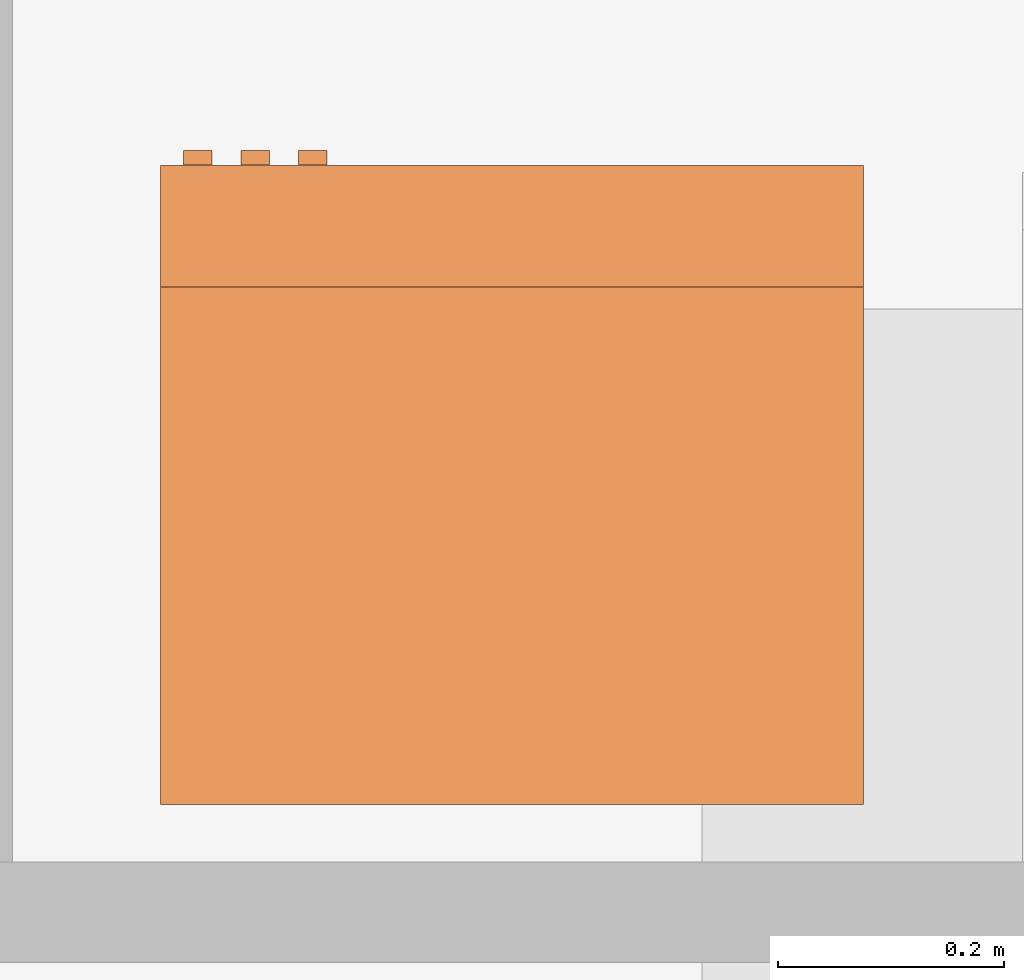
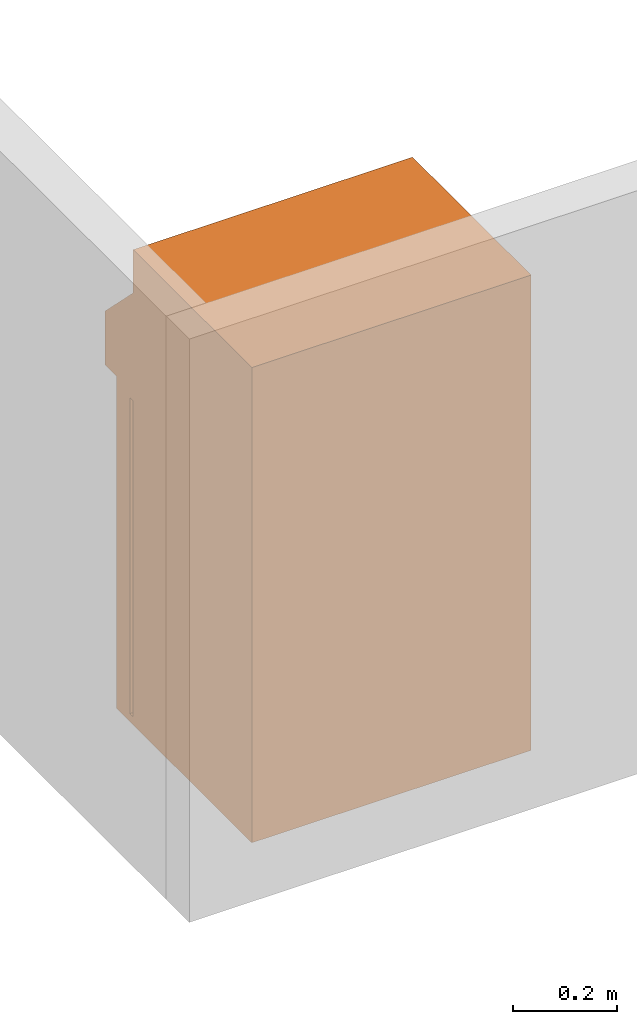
# One storey, part 138 of 142: 1 proxy.
"""IFC2X3 building model written with IfcOpenShell, lengths in feet."""

from ifc_helpers import new_model, entity, si_unit, converted_unit, derived_unit, direction, frame, origin, place, context, subcontext, project, spatial, faceted_brep, source, transform, mapped, type_object, type_shapes, element, save


model = new_model("IFC2X3")

# Units and contexts
model_context = context("Model", 3, precision=0.0001, world=origin(), true_north=direction((6.12303176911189e-17, 1.0)))
body_context = subcontext(model_context, "Body", "Model", "MODEL_VIEW")
ifc_project = project(units=[converted_unit("LENGTHUNIT", "FOOT", entity("IfcRatioMeasure", 0.3048), si_unit("LENGTHUNIT", "METRE"), dimensions=[1, 0, 0, 0, 0, 0, 0]), converted_unit("AREAUNIT", "SQUARE FOOT", entity("IfcRatioMeasure", 0.09290304), si_unit("AREAUNIT", "SQUARE_METRE"), dimensions=[2, 0, 0, 0, 0, 0, 0]), converted_unit("VOLUMEUNIT", "CUBIC FOOT", entity("IfcRatioMeasure", 0.028316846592), si_unit("VOLUMEUNIT", "CUBIC_METRE"), dimensions=[3, 0, 0, 0, 0, 0, 0]), converted_unit("PLANEANGLEUNIT", "DEGREE", entity("IfcRatioMeasure", 0.0174532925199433), si_unit("PLANEANGLEUNIT", "RADIAN"), dimensions=[0, 0, 0, 0, 0, 0, 0]), si_unit("MASSUNIT", "GRAM", prefix="KILO"), derived_unit("MASSDENSITYUNIT", [(si_unit("MASSUNIT", "GRAM", prefix="KILO"), 1), (si_unit("LENGTHUNIT", "METRE"), -3)]), si_unit("TIMEUNIT", "SECOND"), si_unit("FREQUENCYUNIT", "HERTZ"), si_unit("THERMODYNAMICTEMPERATUREUNIT", "DEGREE_CELSIUS"), derived_unit("THERMALTRANSMITTANCEUNIT", [(si_unit("MASSUNIT", "GRAM", prefix="KILO"), 1), (si_unit("THERMODYNAMICTEMPERATUREUNIT", "KELVIN"), -1), (si_unit("TIMEUNIT", "SECOND"), -3)]), derived_unit("VOLUMETRICFLOWRATEUNIT", [(si_unit("LENGTHUNIT", "METRE"), 3), (si_unit("TIMEUNIT", "SECOND"), -1)]), si_unit("ELECTRICCURRENTUNIT", "AMPERE"), si_unit("ELECTRICVOLTAGEUNIT", "VOLT"), si_unit("POWERUNIT", "WATT"), si_unit("FORCEUNIT", "NEWTON"), si_unit("ILLUMINANCEUNIT", "LUX"), si_unit("LUMINOUSFLUXUNIT", "LUMEN"), si_unit("LUMINOUSINTENSITYUNIT", "CANDELA"), derived_unit("USERDEFINED", [(si_unit("MASSUNIT", "GRAM", prefix="KILO"), -1), (si_unit("LENGTHUNIT", "METRE"), -2), (si_unit("TIMEUNIT", "SECOND"), 3), (si_unit("LUMINOUSFLUXUNIT", "LUMEN"), 1)]), derived_unit("LINEARVELOCITYUNIT", [(si_unit("LENGTHUNIT", "METRE"), 1), (si_unit("TIMEUNIT", "SECOND"), -1)]), si_unit("PRESSUREUNIT", "PASCAL"), derived_unit("USERDEFINED", [(si_unit("LENGTHUNIT", "METRE"), -2), (si_unit("MASSUNIT", "GRAM", prefix="KILO"), 1), (si_unit("TIMEUNIT", "SECOND"), -2)])], contexts=[model_context])

# Site, building, storey, space
site_placement = place(None, origin())
site = spatial("IfcSite", under=ifc_project, at=site_placement, Name="Default", CompositionType="ELEMENT")
building_placement = place(site_placement, origin())
building = spatial("IfcBuilding", under=site, at=building_placement, Name="OUTPATIENT / PACT CLINIC (Ch. 265)", CompositionType="ELEMENT")
storey_placement = place(building_placement, origin())
storey = spatial("IfcBuildingStorey", under=building, at=storey_placement, Name="LEVEL 1", CompositionType="ELEMENT", Elevation=0.0)
space_placement = place(storey_placement, origin())
space = spatial("IfcSpace", under=storey, at=space_placement, Name="RCA02", CompositionType="ELEMENT", InteriorOrExteriorSpace="INTERNAL")

# Proxy
building_element_proxy_type = type_object("IfcBuildingElementProxyType", Name="F2550 - Shredder, Paper Heavy Duty", PredefinedType="NOTDEFINED")
shared_shape = source(origin(), body_context, "Body", "Brep", [
    faceted_brep([(0.933890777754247, -0.895833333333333, 2.96222979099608), (0.850557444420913, -0.895833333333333, 2.96222979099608), (0.850557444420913, -0.895833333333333, 2.75389645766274), (0.933890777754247, -0.895833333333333, 2.75389645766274), (0.933890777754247, -0.854166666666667, 2.96222979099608), (0.933890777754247, -0.854166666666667, 2.75389645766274), (0.850557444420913, -0.854166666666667, 2.75389645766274), (0.850557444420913, -0.854166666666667, 2.96222979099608)], [[[0, 1, 2, 3]], [[4, 5, 6, 7]], [[1, 0, 4, 7]], [[2, 1, 7, 6]], [[3, 2, 6, 5]], [[0, 3, 5, 4]]]),
    faceted_brep([(0.76722411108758, -0.895833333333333, 2.96222979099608), (0.683890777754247, -0.895833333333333, 2.96222979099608), (0.683890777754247, -0.895833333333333, 2.75389645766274), (0.76722411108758, -0.895833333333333, 2.75389645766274), (0.76722411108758, -0.854166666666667, 2.96222979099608), (0.76722411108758, -0.854166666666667, 2.75389645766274), (0.683890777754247, -0.854166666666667, 2.75389645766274), (0.683890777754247, -0.854166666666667, 2.96222979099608)], [[[0, 1, 2, 3]], [[4, 5, 6, 7]], [[1, 0, 4, 7]], [[2, 1, 7, 6]], [[3, 2, 6, 5]], [[0, 3, 5, 4]]]),
    faceted_brep([(0.600557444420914, -0.895833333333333, 2.96222979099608), (0.51722411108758, -0.895833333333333, 2.96222979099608), (0.51722411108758, -0.895833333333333, 2.75389645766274), (0.600557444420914, -0.895833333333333, 2.75389645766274), (0.600557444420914, -0.854166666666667, 2.96222979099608), (0.600557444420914, -0.854166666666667, 2.75389645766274), (0.51722411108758, -0.854166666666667, 2.75389645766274), (0.51722411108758, -0.854166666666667, 2.96222979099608)], [[[0, 1, 2, 3]], [[4, 5, 6, 7]], [[1, 0, 4, 7]], [[2, 1, 7, 6]], [[3, 2, 6, 5]], [[0, 3, 5, 4]]]),
    faceted_brep([(1.0, -0.541666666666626, 2.58394660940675), (1.0, -0.708333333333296, 2.58394660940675), (1.0, -0.708333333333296, 0.145833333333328), (1.0, -0.541666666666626, 0.145833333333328), (-0.981201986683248, -0.541666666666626, 2.58394660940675), (-0.981201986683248, -0.541666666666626, 0.145833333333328), (-0.981201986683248, -0.708333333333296, 0.145833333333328), (-0.981201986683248, -0.708333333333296, 2.58394660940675)], [[[0, 1, 2, 3]], [[4, 5, 6, 7]], [[1, 0, 4, 7]], [[2, 1, 7, 6]], [[3, 2, 6, 5]], [[0, 3, 5, 4]]]),
    faceted_brep([(0.729166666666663, -0.708333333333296, 2.64644660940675), (0.729166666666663, -0.708333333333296, 2.58394660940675), (1.0, -0.708333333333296, 2.58394660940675), (1.0, -0.708333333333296, 2.64644660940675), (0.729166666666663, -0.499999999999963, 2.64644660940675), (1.0, -0.499999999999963, 2.64644660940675), (1.0, -0.499999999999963, 2.58394660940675), (0.729166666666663, -0.499999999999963, 2.58394660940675)], [[[0, 1, 2, 3]], [[4, 5, 6, 7]], [[1, 0, 4, 7]], [[2, 1, 7, 6]], [[3, 2, 6, 5]], [[0, 3, 5, 4]]]),
    faceted_brep([(0.729166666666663, -0.708333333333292, 0.145833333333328), (0.729166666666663, -0.708333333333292, 0.0833333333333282), (1.0, -0.708333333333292, 0.0833333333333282), (1.0, -0.708333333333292, 0.145833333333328), (0.729166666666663, -0.499999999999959, 0.145833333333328), (1.0, -0.499999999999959, 0.145833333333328), (1.0, -0.499999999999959, 0.0833333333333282), (0.729166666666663, -0.499999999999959, 0.0833333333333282)], [[[0, 1, 2, 3]], [[4, 5, 6, 7]], [[1, 0, 4, 7]], [[2, 1, 7, 6]], [[3, 2, 6, 5]], [[0, 3, 5, 4]]]),
    faceted_brep([(0.899788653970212, -0.541666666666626, 2.53491846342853), (-0.907183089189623, -0.541666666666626, 2.53491846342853), (-0.907183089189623, -0.541666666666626, 0.201585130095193), (0.899788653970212, -0.541666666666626, 0.201585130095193), (0.899788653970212, -0.499999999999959, 2.53491846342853), (0.899788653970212, -0.499999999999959, 0.201585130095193), (-0.907183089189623, -0.499999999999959, 0.201585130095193), (-0.907183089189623, -0.499999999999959, 2.53491846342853)], [[[0, 1, 2, 3]], [[4, 5, 6, 7]], [[1, 0, 4, 7]], [[2, 1, 7, 6]], [[3, 2, 6, 5]], [[0, 3, 5, 4]]]),
    faceted_brep([(1.0, 1.0, 3.75), (1.0, -0.499999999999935, 3.75000000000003), (1.0, -0.499999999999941, 3.41666666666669), (1.0, -0.853553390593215, 3.06311327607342), (1.0, -0.853553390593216, 2.64644660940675), (1.0, -0.499999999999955, 2.64644660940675), (1.0, -0.499999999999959, 0.0833333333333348), (1.0, 1.0, 0.0833333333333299), (-1.03832909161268, 1.0, 3.75), (-1.03832909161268, 1.0, 0.0833333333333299), (-1.03832909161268, -0.499999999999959, 0.0833333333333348), (-1.03832909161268, -0.499999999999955, 2.64644660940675), (-1.03832909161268, -0.853553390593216, 2.64644660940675), (-1.03832909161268, -0.853553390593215, 3.06311327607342), (-1.03832909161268, -0.499999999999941, 3.41666666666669), (-1.03832909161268, -0.499999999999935, 3.75000000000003), (-0.907183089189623, -0.853553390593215, 2.96282054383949), (0.42615024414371, -0.853553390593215, 2.96282054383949), (0.42615024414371, -0.853553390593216, 2.73365387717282), (-0.907183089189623, -0.853553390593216, 2.73365387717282), (0.42615024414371, -0.24574464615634, 2.96282054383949), (-0.907183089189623, -0.24574464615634, 2.96282054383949), (-0.907183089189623, -0.24574464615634, 2.73365387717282), (0.42615024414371, -0.24574464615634, 2.73365387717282)], [[[0, 1, 2, 3, 4, 5, 6, 7]], [[8, 9, 10, 11, 12, 13, 14, 15]], [[1, 0, 8, 15]], [[2, 1, 15, 14]], [[3, 2, 14, 13]], [[4, 3, 13, 12], [16, 17, 18, 19]], [[5, 4, 12, 11]], [[6, 5, 11, 10]], [[7, 6, 10, 9]], [[0, 7, 9, 8]], [[20, 21, 22, 23]], [[21, 20, 17, 16]], [[22, 21, 16, 19]], [[23, 22, 19, 18]], [[20, 23, 18, 17]]]),
    faceted_brep([(-0.803324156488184, -0.383966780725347, 0.0833333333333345), (-0.788250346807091, -0.377723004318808, 0.0833333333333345), (-0.775306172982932, -0.36779059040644, 0.0833333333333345), (-0.765373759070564, -0.354846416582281, 0.0833333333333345), (-0.759129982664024, -0.339772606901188, 0.0833333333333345), (-0.757000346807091, -0.32359641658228, 0.0833333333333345), (-0.759129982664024, -0.307420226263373, 0.0833333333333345), (-0.765373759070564, -0.29234641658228, 0.0833333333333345), (-0.775306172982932, -0.279402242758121, 0.0833333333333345), (-0.788250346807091, -0.269469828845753, 0.0833333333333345), (-0.803324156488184, -0.263226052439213, 0.0833333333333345), (-0.819500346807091, -0.26109641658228, 0.0833333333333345), (-0.835676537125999, -0.263226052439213, 0.0833333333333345), (-0.850750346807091, -0.269469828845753, 0.0833333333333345), (-0.86369452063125, -0.279402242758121, 0.0833333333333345), (-0.873626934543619, -0.29234641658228, 0.0833333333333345), (-0.879870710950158, -0.307420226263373, 0.0833333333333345), (-0.882000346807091, -0.32359641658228, 0.0833333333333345), (-0.879870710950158, -0.339772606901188, 0.0833333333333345), (-0.873626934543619, -0.35484641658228, 0.0833333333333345), (-0.863694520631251, -0.367790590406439, 0.0833333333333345), (-0.850750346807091, -0.377723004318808, 0.0833333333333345), (-0.835676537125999, -0.383966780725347, 0.0833333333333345), (-0.819500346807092, -0.38609641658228, 0.0833333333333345), (-0.775306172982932, -0.279402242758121, 0.0), (-0.765373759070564, -0.29234641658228, 0.0), (-0.759129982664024, -0.307420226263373, 0.0), (-0.757000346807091, -0.323596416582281, 0.0), (-0.759129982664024, -0.339772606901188, 0.0), (-0.765373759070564, -0.354846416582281, 0.0), (-0.775306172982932, -0.36779059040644, 0.0), (-0.788250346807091, -0.377723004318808, 0.0), (-0.803324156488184, -0.383966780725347, 0.0), (-0.819500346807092, -0.38609641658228, 0.0), (-0.835676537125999, -0.383966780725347, 0.0), (-0.850750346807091, -0.377723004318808, 0.0), (-0.863694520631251, -0.367790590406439, 0.0), (-0.873626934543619, -0.35484641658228, 0.0), (-0.879870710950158, -0.339772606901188, 0.0), (-0.882000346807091, -0.32359641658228, 0.0), (-0.879870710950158, -0.307420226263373, 0.0), (-0.873626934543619, -0.29234641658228, 0.0), (-0.86369452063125, -0.279402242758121, 0.0), (-0.850750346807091, -0.269469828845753, 0.0), (-0.835676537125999, -0.263226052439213, 0.0), (-0.819500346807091, -0.26109641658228, 0.0), (-0.803324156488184, -0.263226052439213, 0.0), (-0.788250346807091, -0.269469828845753, 0.0)], [[[0, 1, 2, 3, 4, 5, 6, 7, 8, 9, 10, 11, 12, 13, 14, 15, 16, 17, 18, 19, 20, 21, 22, 23]], [[24, 25, 26, 27, 28, 29, 30, 31, 32, 33, 34, 35, 36, 37, 38, 39, 40, 41, 42, 43, 44, 45, 46, 47]], [[38, 18, 17, 39]], [[37, 19, 18, 38]], [[21, 20, 36, 35]], [[37, 36, 20, 19]], [[22, 21, 35, 34]], [[23, 22, 34, 33]], [[1, 31, 30, 2]], [[3, 29, 28, 4]], [[30, 29, 3, 2]], [[4, 28, 27, 5]], [[31, 1, 0, 32]], [[0, 23, 33, 32]], [[26, 6, 5, 27]], [[25, 7, 6, 26]], [[9, 8, 24, 47]], [[25, 24, 8, 7]], [[10, 9, 47, 46]], [[46, 45, 11, 10]], [[12, 44, 43, 13]], [[42, 14, 13, 43]], [[15, 41, 40, 16]], [[42, 41, 15, 14]], [[16, 40, 39, 17]], [[44, 12, 11, 45]]]),
    faceted_brep([(-0.765373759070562, 0.749320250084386, 0.0833333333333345), (-0.759129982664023, 0.764394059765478, 0.0833333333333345), (-0.757000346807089, 0.780570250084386, 0.0833333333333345), (-0.759129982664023, 0.796746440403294, 0.0833333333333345), (-0.765373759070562, 0.811820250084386, 0.0833333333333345), (-0.77530617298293, 0.824764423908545, 0.0833333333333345), (-0.788250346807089, 0.834696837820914, 0.0833333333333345), (-0.803324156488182, 0.840940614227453, 0.0833333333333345), (-0.819500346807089, 0.843070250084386, 0.0833333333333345), (-0.835676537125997, 0.840940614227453, 0.0833333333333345), (-0.850750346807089, 0.834696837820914, 0.0833333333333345), (-0.863694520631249, 0.824764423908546, 0.0833333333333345), (-0.873626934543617, 0.811820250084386, 0.0833333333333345), (-0.879870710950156, 0.796746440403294, 0.0833333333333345), (-0.882000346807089, 0.780570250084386, 0.0833333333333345), (-0.879870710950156, 0.764394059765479, 0.0833333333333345), (-0.873626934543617, 0.749320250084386, 0.0833333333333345), (-0.863694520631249, 0.736376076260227, 0.0833333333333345), (-0.85075034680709, 0.726443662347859, 0.0833333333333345), (-0.835676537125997, 0.720199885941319, 0.0833333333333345), (-0.81950034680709, 0.718070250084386, 0.0833333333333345), (-0.803324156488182, 0.720199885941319, 0.0833333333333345), (-0.78825034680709, 0.726443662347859, 0.0833333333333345), (-0.77530617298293, 0.736376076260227, 0.0833333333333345), (-0.803324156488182, 0.840940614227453, 0.0), (-0.788250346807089, 0.834696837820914, 0.0), (-0.77530617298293, 0.824764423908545, 0.0), (-0.765373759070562, 0.811820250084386, 0.0), (-0.759129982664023, 0.796746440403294, 0.0), (-0.757000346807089, 0.780570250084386, 0.0), (-0.759129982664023, 0.764394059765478, 0.0), (-0.765373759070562, 0.749320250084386, 0.0), (-0.77530617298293, 0.736376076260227, 0.0), (-0.78825034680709, 0.726443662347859, 0.0), (-0.803324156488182, 0.720199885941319, 0.0), (-0.81950034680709, 0.718070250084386, 0.0), (-0.835676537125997, 0.720199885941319, 0.0), (-0.85075034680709, 0.726443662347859, 0.0), (-0.863694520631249, 0.736376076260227, 0.0), (-0.873626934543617, 0.749320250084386, 0.0), (-0.879870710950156, 0.764394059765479, 0.0), (-0.882000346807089, 0.780570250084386, 0.0), (-0.879870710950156, 0.796746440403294, 0.0), (-0.873626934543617, 0.811820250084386, 0.0), (-0.863694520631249, 0.824764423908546, 0.0), (-0.850750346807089, 0.834696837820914, 0.0), (-0.835676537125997, 0.840940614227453, 0.0), (-0.819500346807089, 0.843070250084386, 0.0)], [[[0, 1, 2, 3, 4, 5, 6, 7, 8, 9, 10, 11, 12, 13, 14, 15, 16, 17, 18, 19, 20, 21, 22, 23]], [[24, 25, 26, 27, 28, 29, 30, 31, 32, 33, 34, 35, 36, 37, 38, 39, 40, 41, 42, 43, 44, 45, 46, 47]], [[40, 15, 14, 41]], [[39, 16, 15, 40]], [[18, 17, 38, 37]], [[39, 38, 17, 16]], [[19, 18, 37, 36]], [[20, 19, 36, 35]], [[22, 33, 32, 23]], [[0, 31, 30, 1]], [[32, 31, 0, 23]], [[1, 30, 29, 2]], [[33, 22, 21, 34]], [[21, 20, 35, 34]], [[28, 3, 2, 29]], [[27, 4, 3, 28]], [[6, 5, 26, 25]], [[27, 26, 5, 4]], [[7, 6, 25, 24]], [[24, 47, 8, 7]], [[9, 46, 45, 10]], [[44, 11, 10, 45]], [[12, 43, 42, 13]], [[44, 43, 12, 11]], [[13, 42, 41, 14]], [[46, 9, 8, 47]]]),
    faceted_brep([(0.821675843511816, -0.383966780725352, 0.0833333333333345), (0.836749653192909, -0.377723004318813, 0.0833333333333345), (0.849693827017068, -0.367790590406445, 0.0833333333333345), (0.859626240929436, -0.354846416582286, 0.0833333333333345), (0.865870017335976, -0.339772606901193, 0.0833333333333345), (0.867999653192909, -0.323596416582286, 0.0833333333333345), (0.865870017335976, -0.307420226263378, 0.0833333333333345), (0.859626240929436, -0.292346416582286, 0.0833333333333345), (0.849693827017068, -0.279402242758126, 0.0833333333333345), (0.836749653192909, -0.269469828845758, 0.0833333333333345), (0.821675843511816, -0.263226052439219, 0.0833333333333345), (0.805499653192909, -0.261096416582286, 0.0833333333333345), (0.789323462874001, -0.263226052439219, 0.0833333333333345), (0.774249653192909, -0.269469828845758, 0.0833333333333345), (0.76130547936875, -0.279402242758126, 0.0833333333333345), (0.751373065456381, -0.292346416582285, 0.0833333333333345), (0.745129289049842, -0.307420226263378, 0.0833333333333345), (0.742999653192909, -0.323596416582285, 0.0833333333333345), (0.745129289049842, -0.339772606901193, 0.0833333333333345), (0.751373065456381, -0.354846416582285, 0.0833333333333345), (0.761305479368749, -0.367790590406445, 0.0833333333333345), (0.774249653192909, -0.377723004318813, 0.0833333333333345), (0.789323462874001, -0.383966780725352, 0.0833333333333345), (0.805499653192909, -0.386096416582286, 0.0833333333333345), (0.849693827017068, -0.279402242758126, 0.0), (0.859626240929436, -0.292346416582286, 0.0), (0.865870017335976, -0.307420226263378, 0.0), (0.867999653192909, -0.323596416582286, 0.0), (0.865870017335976, -0.339772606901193, 0.0), (0.859626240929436, -0.354846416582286, 0.0), (0.849693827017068, -0.367790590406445, 0.0), (0.836749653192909, -0.377723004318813, 0.0), (0.821675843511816, -0.383966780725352, 0.0), (0.805499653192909, -0.386096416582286, 0.0), (0.789323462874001, -0.383966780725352, 0.0), (0.774249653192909, -0.377723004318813, 0.0), (0.761305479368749, -0.367790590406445, 0.0), (0.751373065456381, -0.354846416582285, 0.0), (0.745129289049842, -0.339772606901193, 0.0), (0.742999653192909, -0.323596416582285, 0.0), (0.745129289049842, -0.307420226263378, 0.0), (0.751373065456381, -0.292346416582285, 0.0), (0.76130547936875, -0.279402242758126, 0.0), (0.774249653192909, -0.269469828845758, 0.0), (0.789323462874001, -0.263226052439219, 0.0), (0.805499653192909, -0.261096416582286, 0.0), (0.821675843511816, -0.263226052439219, 0.0), (0.836749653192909, -0.269469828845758, 0.0)], [[[0, 1, 2, 3, 4, 5, 6, 7, 8, 9, 10, 11, 12, 13, 14, 15, 16, 17, 18, 19, 20, 21, 22, 23]], [[24, 25, 26, 27, 28, 29, 30, 31, 32, 33, 34, 35, 36, 37, 38, 39, 40, 41, 42, 43, 44, 45, 46, 47]], [[38, 18, 17, 39]], [[37, 19, 18, 38]], [[21, 20, 36, 35]], [[37, 36, 20, 19]], [[22, 21, 35, 34]], [[23, 22, 34, 33]], [[1, 31, 30, 2]], [[3, 29, 28, 4]], [[30, 29, 3, 2]], [[4, 28, 27, 5]], [[31, 1, 0, 32]], [[0, 23, 33, 32]], [[26, 6, 5, 27]], [[25, 7, 6, 26]], [[9, 8, 24, 47]], [[25, 24, 8, 7]], [[10, 9, 47, 46]], [[46, 45, 11, 10]], [[12, 44, 43, 13]], [[42, 14, 13, 43]], [[15, 41, 40, 16]], [[42, 41, 15, 14]], [[16, 40, 39, 17]], [[44, 12, 11, 45]]]),
    faceted_brep([(0.859626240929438, 0.749320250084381, 0.0833333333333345), (0.865870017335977, 0.764394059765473, 0.0833333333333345), (0.867999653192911, 0.780570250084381, 0.0833333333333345), (0.865870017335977, 0.796746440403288, 0.0833333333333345), (0.859626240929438, 0.811820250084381, 0.0833333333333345), (0.84969382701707, 0.82476442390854, 0.0833333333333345), (0.836749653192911, 0.834696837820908, 0.0833333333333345), (0.821675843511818, 0.840940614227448, 0.0833333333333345), (0.805499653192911, 0.843070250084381, 0.0833333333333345), (0.789323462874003, 0.840940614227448, 0.0833333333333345), (0.774249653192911, 0.834696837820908, 0.0833333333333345), (0.761305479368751, 0.82476442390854, 0.0833333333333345), (0.751373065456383, 0.811820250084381, 0.0833333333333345), (0.745129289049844, 0.796746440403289, 0.0833333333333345), (0.742999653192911, 0.780570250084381, 0.0833333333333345), (0.745129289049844, 0.764394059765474, 0.0833333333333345), (0.751373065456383, 0.749320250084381, 0.0833333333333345), (0.761305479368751, 0.736376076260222, 0.0833333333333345), (0.77424965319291, 0.726443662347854, 0.0833333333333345), (0.789323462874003, 0.720199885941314, 0.0833333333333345), (0.80549965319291, 0.718070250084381, 0.0833333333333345), (0.821675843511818, 0.720199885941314, 0.0833333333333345), (0.83674965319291, 0.726443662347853, 0.0833333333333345), (0.84969382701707, 0.736376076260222, 0.0833333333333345), (0.821675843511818, 0.840940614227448, 0.0), (0.836749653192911, 0.834696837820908, 0.0), (0.84969382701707, 0.82476442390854, 0.0), (0.859626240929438, 0.811820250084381, 0.0), (0.865870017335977, 0.796746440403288, 0.0), (0.867999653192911, 0.780570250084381, 0.0), (0.865870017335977, 0.764394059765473, 0.0), (0.859626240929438, 0.749320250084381, 0.0), (0.84969382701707, 0.736376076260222, 0.0), (0.83674965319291, 0.726443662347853, 0.0), (0.821675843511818, 0.720199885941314, 0.0), (0.80549965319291, 0.718070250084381, 0.0), (0.789323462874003, 0.720199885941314, 0.0), (0.77424965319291, 0.726443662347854, 0.0), (0.761305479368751, 0.736376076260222, 0.0), (0.751373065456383, 0.749320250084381, 0.0), (0.745129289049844, 0.764394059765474, 0.0), (0.742999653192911, 0.780570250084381, 0.0), (0.745129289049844, 0.796746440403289, 0.0), (0.751373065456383, 0.811820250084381, 0.0), (0.761305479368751, 0.82476442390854, 0.0), (0.774249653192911, 0.834696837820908, 0.0), (0.789323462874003, 0.840940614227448, 0.0), (0.805499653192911, 0.843070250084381, 0.0)], [[[0, 1, 2, 3, 4, 5, 6, 7, 8, 9, 10, 11, 12, 13, 14, 15, 16, 17, 18, 19, 20, 21, 22, 23]], [[24, 25, 26, 27, 28, 29, 30, 31, 32, 33, 34, 35, 36, 37, 38, 39, 40, 41, 42, 43, 44, 45, 46, 47]], [[40, 15, 14, 41]], [[39, 16, 15, 40]], [[18, 17, 38, 37]], [[39, 38, 17, 16]], [[19, 18, 37, 36]], [[20, 19, 36, 35]], [[22, 33, 32, 23]], [[0, 31, 30, 1]], [[32, 31, 0, 23]], [[1, 30, 29, 2]], [[33, 22, 21, 34]], [[21, 20, 35, 34]], [[28, 3, 2, 29]], [[27, 4, 3, 28]], [[6, 5, 26, 25]], [[27, 26, 5, 4]], [[7, 6, 25, 24]], [[24, 47, 8, 7]], [[9, 46, 45, 10]], [[44, 11, 10, 45]], [[12, 43, 42, 13]], [[44, 43, 12, 11]], [[13, 42, 41, 14]], [[46, 9, 8, 47]]]),
])
type_shapes(building_element_proxy_type, [shared_shape])
proxy_placement = place(space_placement, frame((410.78902116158, -912.670518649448, 0.0), z_axis=(0.0, 0.0, 1.0), x_axis=(-1.0, 0.0, 0.0)))
element("IfcBuildingElementProxy", 1, at=proxy_placement, inside=space, type_object=building_element_proxy_type, Name="F2550 - Shredder, Paper Heavy Duty:F2550 - Shredder, Paper Heavy Duty", ObjectType="F2550 - Shredder, Paper Heavy Duty", context=body_context, shape_type="MappedRepresentation", body=[
    mapped(shared_shape, transform((0.0, 0.0, 0.0), scale=1.0)),
])

save(model, "model.ifc")
